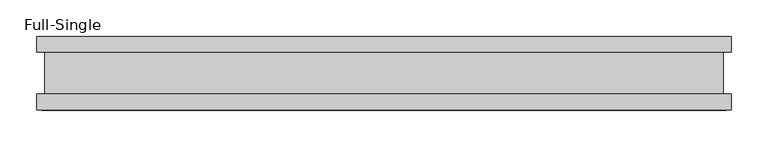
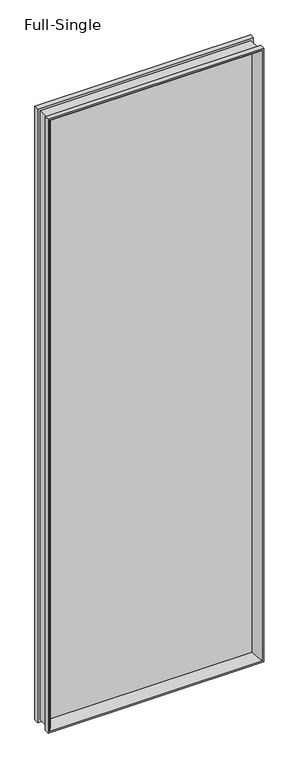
"""IFC4 building model written with IfcOpenShell, lengths in millimetres: proxy geometry, Panel-Fascia-Teknion-Altos-Single_Glass : Full-Single."""

from ifc_helpers import new_model, si_unit, frame, origin, place, context, project, spatial, polyline, ellipse_curve, outline, extrude, source, transform, mapped, element, save
from ifc_brep_helpers import plane_surface, cylinder_surface, advanced_brep


def full_single_78f033fe(model_context):
    return source(origin(), model_context, "Body", "SolidModel", [
        advanced_brep(
        [(447.4829676, -5.0827449, 2819.2123332), (447.4829676, -5.0827449, 28.1276668), (465.4378179, -50.0558594, 10.1728164), (465.4378179, -50.0558594, 2837.1671836), (457.9731586, 5.0827449, 2829.7025243), (457.9731586, 5.0827449, 17.6374757), (457.9731586, -5.0827449, 17.6374757), (457.9731586, -5.0827449, 2829.7025243), (465.4378179, 50.0558594, 2837.1671836), (465.4378179, 50.0558594, 10.1728164), (447.4829676, 5.0827449, 28.1276668), (447.4829676, 5.0827449, 2819.2123332), (472.4356344, 28.8801202, 2844.165), (472.4356344, 28.8801202, 3.175), (472.4356344, 50.0558594, 3.175), (472.4356344, 50.0558594, 2844.165), (461.6106344, -28.2698798, 2833.3400001), (461.6106344, -28.2698798, 13.9999999), (461.6106344, 28.8801202, 13.9999999), (461.6106344, 28.8801202, 2833.3400001), (472.4356344, -50.0558594, 2844.165), (472.4356344, -50.0558594, 3.175), (472.4356344, -28.2698798, 3.175), (472.4356344, -28.2698798, 2844.165), (-447.4829676, -5.0827449, 28.1276668), (-465.4378179, -50.0558594, 10.1728164), (-457.9731586, 5.0827449, 17.6374757), (-457.9731586, -5.0827449, 17.6374757), (-465.4378179, 50.0558594, 10.1728164), (-447.4829676, 5.0827449, 28.1276668), (-472.4356344, 28.8801202, 3.175), (-472.4356344, 50.0558594, 3.175), (-461.6106344, -28.2698798, 13.9999999), (-461.6106344, 28.8801202, 13.9999999), (-472.4356344, -50.0558594, 3.175), (-472.4356344, -28.2698798, 3.175), (-447.4829676, -5.0827449, 2819.2123332), (-465.4378179, -50.0558594, 2837.1671836), (-457.9731586, 5.0827449, 2829.7025243), (-457.9731586, -5.0827449, 2829.7025243), (-465.4378179, 50.0558594, 2837.1671836), (-447.4829676, 5.0827449, 2819.2123332), (-472.4356344, 28.8801202, 2844.165), (-472.4356344, 50.0558594, 2844.165), (-461.6106344, -28.2698798, 2833.3400001), (-461.6106344, 28.8801202, 2833.3400001), (-472.4356344, -50.0558594, 2844.165), (-472.4356344, -28.2698798, 2844.165)],
        [
            (0, 1),
            (1, 2, ellipse_curve(frame((499.5692049, -10.3587469, -23.9585705), z_axis=(0.7071067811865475, 0.0, 0.7071067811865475), x_axis=(-0.7071067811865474, 0.0, 0.7071067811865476)), 74.0379946, 52.352768)),
            (2, 3),
            (3, 0, ellipse_curve(frame((499.5692049, -10.3587469, 2871.2985705), z_axis=(0.7071067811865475, 0.0, -0.7071067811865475), x_axis=(0.7071067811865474, 0.0, 0.7071067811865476)), 74.0379946, 52.352768)),
            (4, 5),
            (5, 6),
            (6, 7),
            (7, 4),
            (8, 9),
            (9, 10, ellipse_curve(frame((499.5692049, 10.3587469, -23.9585705), z_axis=(0.7071067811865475, 0.0, 0.7071067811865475), x_axis=(-0.7071067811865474, 0.0, 0.7071067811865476)), 74.0379946, 52.352768)),
            (10, 11),
            (11, 8, ellipse_curve(frame((499.5692049, 10.3587469, 2871.2985705), z_axis=(0.7071067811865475, 0.0, -0.7071067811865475), x_axis=(0.7071067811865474, 0.0, 0.7071067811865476)), 74.0379946, 52.352768)),
            (12, 13),
            (13, 14),
            (14, 15),
            (15, 12),
            (16, 17),
            (17, 18),
            (18, 19),
            (19, 16),
            (20, 21),
            (21, 22),
            (22, 23),
            (23, 20),
            (1, 24),
            (24, 25, ellipse_curve(frame((-499.5692049, -10.3587469, -23.9585705), z_axis=(0.7071067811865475, 0.0, -0.7071067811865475), x_axis=(0.7071067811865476, 0.0, 0.7071067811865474)), 74.0379946, 52.352768)),
            (25, 2),
            (5, 26),
            (26, 27),
            (27, 6),
            (9, 28),
            (28, 29, ellipse_curve(frame((-499.5692049, 10.3587469, -23.9585705), z_axis=(0.7071067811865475, 0.0, -0.7071067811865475), x_axis=(0.7071067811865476, 0.0, 0.7071067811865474)), 74.0379946, 52.352768)),
            (29, 10),
            (13, 30),
            (30, 31),
            (31, 14),
            (17, 32),
            (32, 33),
            (33, 18),
            (21, 34),
            (34, 35),
            (35, 22),
            (24, 36),
            (36, 37, ellipse_curve(frame((-499.5692049, -10.3587469, 2871.2985705), z_axis=(-0.7071067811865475, 0.0, -0.7071067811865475), x_axis=(0.7071067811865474, 0.0, -0.7071067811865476)), 74.0379946, 52.352768)),
            (37, 25),
            (26, 38),
            (38, 39),
            (39, 27),
            (28, 40),
            (40, 41, ellipse_curve(frame((-499.5692049, 10.3587469, 2871.2985705), z_axis=(-0.7071067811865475, 0.0, -0.7071067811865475), x_axis=(0.7071067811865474, 0.0, -0.7071067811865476)), 74.0379946, 52.352768)),
            (41, 29),
            (30, 42),
            (42, 43),
            (43, 31),
            (32, 44),
            (44, 45),
            (45, 33),
            (34, 46),
            (46, 47),
            (47, 35),
            (20, 46),
            (37, 3),
            (36, 0),
            (39, 7),
            (38, 4),
            (41, 11),
            (40, 8),
            (43, 15),
            (42, 12),
            (45, 19),
            (44, 16),
            (47, 23),
        ],
        [
            cylinder_surface(frame((499.5692049, -10.3587469, 2844.165), z_axis=(0.0, 0.0, 1.0), x_axis=(1.0, 0.0, 0.0)), 52.352768),
            plane_surface(frame((457.9731586, -5.0827449, 2829.7025243), z_axis=(-1.0, 0.0, 0.0), x_axis=(0.0, 0.0, -1.0))),
            cylinder_surface(frame((499.5692049, 10.3587469, 2844.165), z_axis=(0.0, 0.0, 1.0), x_axis=(1.0, 0.0, 0.0)), 52.352768),
            plane_surface(frame((472.4356344, 50.0558594, 2844.165), z_axis=(1.0, 0.0, 0.0), x_axis=(0.0, 0.0, -1.0))),
            plane_surface(frame((461.6106344, 28.8801202, 2833.3400001), z_axis=(1.0, 0.0, 0.0), x_axis=(0.0, 0.0, -1.0))),
            plane_surface(frame((472.4356344, -28.2698798, 2844.165), z_axis=(1.0, 0.0, 0.0), x_axis=(0.0, 0.0, -1.0))),
            cylinder_surface(frame((472.4356344, -10.3587469, -23.9585705), z_axis=(1.0, 0.0, 0.0), x_axis=(0.0, 0.0, -1.0)), 52.352768),
            plane_surface(frame((457.9731586, -5.0827449, 17.6374757), z_axis=(0.0, 0.0, 1.0), x_axis=(-1.0, 0.0, 0.0))),
            cylinder_surface(frame((472.4356344, 10.3587469, -23.9585705), z_axis=(1.0, 0.0, 0.0), x_axis=(0.0, 0.0, -1.0)), 52.352768),
            plane_surface(frame((472.4356344, 50.0558594, 3.175), z_axis=(0.0, 0.0, -1.0), x_axis=(-1.0, 0.0, 0.0))),
            plane_surface(frame((461.6106344, 28.8801202, 13.9999999), z_axis=(0.0, 0.0, -1.0), x_axis=(-1.0, 0.0, 0.0))),
            plane_surface(frame((472.4356344, -28.2698798, 3.175), z_axis=(0.0, 0.0, -1.0), x_axis=(-1.0, 0.0, 0.0))),
            cylinder_surface(frame((-499.5692049, -10.3587469, 3.175), z_axis=(0.0, 0.0, -1.0), x_axis=(-1.0, 0.0, 0.0)), 52.352768),
            plane_surface(frame((-457.9731586, -5.0827449, 17.6374757), z_axis=(1.0, 0.0, 0.0), x_axis=(0.0, 0.0, 1.0))),
            cylinder_surface(frame((-499.5692049, 10.3587469, 3.175), z_axis=(0.0, 0.0, -1.0), x_axis=(-1.0, 0.0, 0.0)), 52.352768),
            plane_surface(frame((-472.4356344, 50.0558594, 3.175), z_axis=(-1.0, 0.0, 0.0), x_axis=(0.0, 0.0, 1.0))),
            plane_surface(frame((-461.6106344, 28.8801202, 13.9999999), z_axis=(-1.0, 0.0, 0.0), x_axis=(0.0, 0.0, 1.0))),
            plane_surface(frame((-472.4356344, -28.2698798, 3.175), z_axis=(-1.0, 0.0, 0.0), x_axis=(0.0, 0.0, 1.0))),
            plane_surface(frame((-472.4356344, -50.0558594, 2844.165), z_axis=(0.0, -1.0, 0.0), x_axis=(1.0, 0.0, 0.0))),
            cylinder_surface(frame((-472.4356344, -10.3587469, 2871.2985705), z_axis=(-1.0, 0.0, 0.0), x_axis=(0.0, 0.0, 1.0)), 52.352768),
            plane_surface(frame((-447.4829676, -5.0827449, 2819.2123332), z_axis=(0.0, 1.0, 0.0), x_axis=(1.0, 0.0, 0.0))),
            plane_surface(frame((-457.9731586, -5.0827449, 2829.7025243), z_axis=(0.0, 0.0, -1.0), x_axis=(1.0, 0.0, 0.0))),
            plane_surface(frame((-457.9731586, 5.0827449, 2829.7025243), z_axis=(0.0, -1.0, 0.0), x_axis=(1.0, 0.0, 0.0))),
            cylinder_surface(frame((-472.4356344, 10.3587469, 2871.2985705), z_axis=(-1.0, 0.0, 0.0), x_axis=(0.0, 0.0, 1.0)), 52.352768),
            plane_surface(frame((-465.4378179, 50.0558594, 2837.1671836), z_axis=(0.0, 1.0, 0.0), x_axis=(1.0, 0.0, 0.0))),
            plane_surface(frame((-472.4356344, 50.0558594, 2844.165), z_axis=(0.0, 0.0, 1.0), x_axis=(1.0, 0.0, 0.0))),
            plane_surface(frame((-472.4356344, 28.8801202, 2844.165), z_axis=(0.0, -1.0, 0.0), x_axis=(1.0, 0.0, 0.0))),
            plane_surface(frame((-461.6106344, 28.8801202, 2833.3400001), z_axis=(0.0, 0.0, 1.0), x_axis=(1.0, 0.0, 0.0))),
            plane_surface(frame((-461.6106344, -28.2698798, 2833.3400001), z_axis=(0.0, 1.0, 0.0), x_axis=(1.0, 0.0, 0.0))),
            plane_surface(frame((-472.4356344, -28.2698798, 2844.165), z_axis=(0.0, 0.0, 1.0), x_axis=(1.0, 0.0, 0.0))),
        ],
        [
            (0, [[1, 2, 3, 4]]),
            (1, [[5, 6, 7, 8]]),
            (2, [[9, 10, 11, 12]]),
            (3, [[13, 14, 15, 16]]),
            (4, [[17, 18, 19, 20]]),
            (5, [[21, 22, 23, 24]]),
            (6, [[25, 26, 27, -2]]),
            (7, [[28, 29, 30, -6]]),
            (8, [[31, 32, 33, -10]]),
            (9, [[34, 35, 36, -14]]),
            (10, [[37, 38, 39, -18]]),
            (11, [[40, 41, 42, -22]]),
            (12, [[43, 44, 45, -26]]),
            (13, [[46, 47, 48, -29]]),
            (14, [[49, 50, 51, -32]]),
            (15, [[52, 53, 54, -35]]),
            (16, [[55, 56, 57, -38]]),
            (17, [[58, 59, 60, -41]]),
            (18, [[-21, 61, -58, -40], [-3, -27, -45, 62]]),
            (19, [[63, -4, -62, -44]]),
            (20, [[-7, -30, -48, 64], [-1, -63, -43, -25]]),
            (21, [[65, -8, -64, -47]]),
            (22, [[-5, -65, -46, -28], [-11, -33, -51, 66]]),
            (23, [[67, -12, -66, -50]]),
            (24, [[-15, -36, -54, 68], [-9, -67, -49, -31]]),
            (25, [[69, -16, -68, -53]]),
            (26, [[-13, -69, -52, -34], [-19, -39, -57, 70]]),
            (27, [[71, -20, -70, -56]]),
            (28, [[-23, -42, -60, 72], [-17, -71, -55, -37]]),
            (29, [[-61, -24, -72, -59]]),
        ],
    ),
        extrude(outline(polyline([(457.9731586, -2.9765625), (-457.9731586, -2.9765625), (-457.9731586, 2.9765625), (457.9731586, 2.9765625), (457.9731586, -2.9765625)])), frame((0.0, 0.0, 17.6374757), z_axis=(0.0, 0.0, 1.0), x_axis=(1.0, 0.0, 0.0)), (0.0, 0.0, 1.0), 2812.0650485),
    ])


if __name__ == "__main__":
    model = new_model("IFC4")
    model_context = context("Model", 3, world=origin())
    ifc_project = project(units=[si_unit("LENGTHUNIT", "METRE", prefix="MILLI")], contexts=[model_context])
    site = spatial("IfcSite", under=ifc_project)
    building = spatial("IfcBuilding", under=site)
    placement = place(None, origin())
    full_single_shape = full_single_78f033fe(model_context)
    element("IfcBuildingElementProxy", 1, Name="Panel-Fascia-Teknion-Altos-Single_Glass : Full-Single", ObjectType="Panel-Fascia-Teknion-Altos-Single_Glass : Full-Single", at=placement, inside=building, context=model_context, shape_type="MappedRepresentation", body=[
        mapped(full_single_shape, transform((0.0, 0.0, 0.0), x_axis=(1.0, 0.0, 0.0), y_axis=(0.0, 1.0, 0.0), z_axis=(0.0, 0.0, 1.0))),
    ])
    save(model, "model.ifc")
